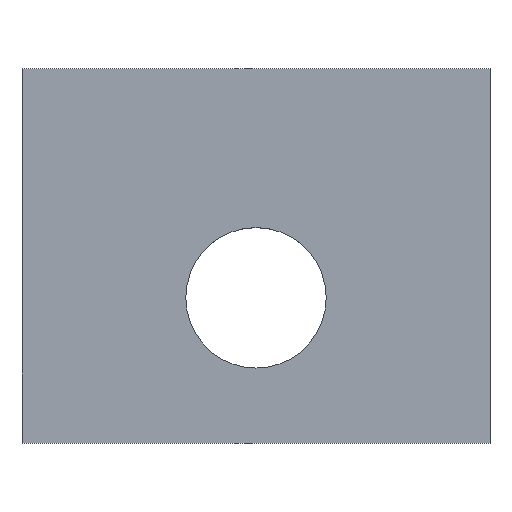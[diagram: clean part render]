
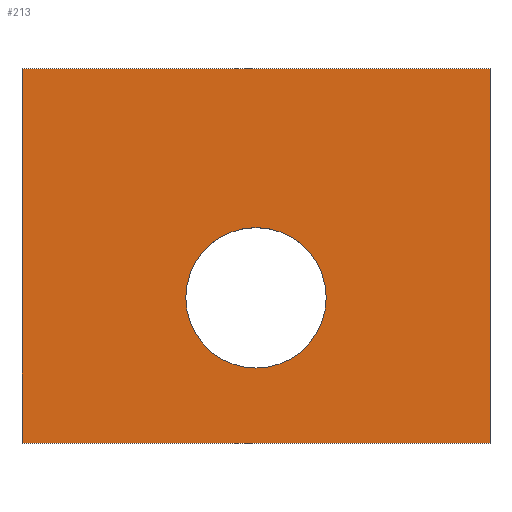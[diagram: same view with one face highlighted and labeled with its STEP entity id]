
A CAD part, top view. The second image highlights one B-rep face of the part: STEP entity #213.
In plain terms, the highlighted planar face has unit normal (0, 0, 1).
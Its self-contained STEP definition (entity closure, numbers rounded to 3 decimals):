
#24 = VERTEX_POINT('',#25);
#25 = CARTESIAN_POINT('',(11.,-15.1,-2.2));
#32 = PLANE('',#33);
#33 = AXIS2_PLACEMENT_3D('',#34,#35,#36);
#34 = CARTESIAN_POINT('',(11.,-15.1,-4.05));
#35 = DIRECTION('',(1.,0.,0.));
#36 = DIRECTION('',(0.,0.,1.));
#44 = PLANE('',#45);
#45 = AXIS2_PLACEMENT_3D('',#46,#47,#48);
#46 = CARTESIAN_POINT('',(11.,-15.1,-4.05));
#47 = DIRECTION('',(0.,1.,0.));
#48 = DIRECTION('',(0.,0.,1.));
#85 = VERTEX_POINT('',#86);
#86 = CARTESIAN_POINT('',(11.,-10.3,-2.2));
#100 = PLANE('',#101);
#101 = AXIS2_PLACEMENT_3D('',#102,#103,#104);
#102 = CARTESIAN_POINT('',(11.,-10.3,-4.05));
#103 = DIRECTION('',(0.,1.,0.));
#104 = DIRECTION('',(0.,0.,1.));
#112 = EDGE_CURVE('',#24,#85,#113,.T.);
#113 = SURFACE_CURVE('',#114,(#118,#125),.PCURVE_S1.);
#114 = LINE('',#115,#116);
#115 = CARTESIAN_POINT('',(11.,-15.1,-2.2));
#116 = VECTOR('',#117,1.);
#117 = DIRECTION('',(0.,1.,0.));
#118 = PCURVE('',#32,#119);
#119 = DEFINITIONAL_REPRESENTATION('',(#120),#124);
#120 = LINE('',#121,#122);
#121 = CARTESIAN_POINT('',(1.85,0.));
#122 = VECTOR('',#123,1.);
#123 = DIRECTION('',(0.,-1.));
#124 = ( GEOMETRIC_REPRESENTATION_CONTEXT(2) 
PARAMETRIC_REPRESENTATION_CONTEXT() REPRESENTATION_CONTEXT('2D SPACE',''
  ) );
#125 = PCURVE('',#126,#131);
#126 = PLANE('',#127);
#127 = AXIS2_PLACEMENT_3D('',#128,#129,#130);
#128 = CARTESIAN_POINT('',(11.,-15.1,-2.2));
#129 = DIRECTION('',(0.,0.,1.));
#130 = DIRECTION('',(1.,0.,0.));
#131 = DEFINITIONAL_REPRESENTATION('',(#132),#136);
#132 = LINE('',#133,#134);
#133 = CARTESIAN_POINT('',(0.,0.));
#134 = VECTOR('',#135,1.);
#135 = DIRECTION('',(0.,1.));
#136 = ( GEOMETRIC_REPRESENTATION_CONTEXT(2) 
PARAMETRIC_REPRESENTATION_CONTEXT() REPRESENTATION_CONTEXT('2D SPACE',''
  ) );
#165 = EDGE_CURVE('',#24,#166,#168,.T.);
#166 = VERTEX_POINT('',#167);
#167 = CARTESIAN_POINT('',(17.,-15.1,-2.2));
#168 = SURFACE_CURVE('',#169,(#173,#180),.PCURVE_S1.);
#169 = LINE('',#170,#171);
#170 = CARTESIAN_POINT('',(11.,-15.1,-2.2));
#171 = VECTOR('',#172,1.);
#172 = DIRECTION('',(1.,0.,0.));
#173 = PCURVE('',#44,#174);
#174 = DEFINITIONAL_REPRESENTATION('',(#175),#179);
#175 = LINE('',#176,#177);
#176 = CARTESIAN_POINT('',(1.85,0.));
#177 = VECTOR('',#178,1.);
#178 = DIRECTION('',(0.,1.));
#179 = ( GEOMETRIC_REPRESENTATION_CONTEXT(2) 
PARAMETRIC_REPRESENTATION_CONTEXT() REPRESENTATION_CONTEXT('2D SPACE',''
  ) );
#180 = PCURVE('',#126,#181);
#181 = DEFINITIONAL_REPRESENTATION('',(#182),#186);
#182 = LINE('',#183,#184);
#183 = CARTESIAN_POINT('',(0.,0.));
#184 = VECTOR('',#185,1.);
#185 = DIRECTION('',(1.,0.));
#186 = ( GEOMETRIC_REPRESENTATION_CONTEXT(2) 
PARAMETRIC_REPRESENTATION_CONTEXT() REPRESENTATION_CONTEXT('2D SPACE',''
  ) );
#202 = PLANE('',#203);
#203 = AXIS2_PLACEMENT_3D('',#204,#205,#206);
#204 = CARTESIAN_POINT('',(17.,-15.1,-4.05));
#205 = DIRECTION('',(1.,0.,0.));
#206 = DIRECTION('',(0.,0.,1.));
#213 = ADVANCED_FACE('',(#214,#262),#126,.T.);
#214 = FACE_BOUND('',#215,.T.);
#215 = EDGE_LOOP('',(#216,#217,#218,#241));
#216 = ORIENTED_EDGE('',*,*,#112,.F.);
#217 = ORIENTED_EDGE('',*,*,#165,.T.);
#218 = ORIENTED_EDGE('',*,*,#219,.T.);
#219 = EDGE_CURVE('',#166,#220,#222,.T.);
#220 = VERTEX_POINT('',#221);
#221 = CARTESIAN_POINT('',(17.,-10.3,-2.2));
#222 = SURFACE_CURVE('',#223,(#227,#234),.PCURVE_S1.);
#223 = LINE('',#224,#225);
#224 = CARTESIAN_POINT('',(17.,-15.1,-2.2));
#225 = VECTOR('',#226,1.);
#226 = DIRECTION('',(0.,1.,0.));
#227 = PCURVE('',#126,#228);
#228 = DEFINITIONAL_REPRESENTATION('',(#229),#233);
#229 = LINE('',#230,#231);
#230 = CARTESIAN_POINT('',(6.,0.));
#231 = VECTOR('',#232,1.);
#232 = DIRECTION('',(0.,1.));
#233 = ( GEOMETRIC_REPRESENTATION_CONTEXT(2) 
PARAMETRIC_REPRESENTATION_CONTEXT() REPRESENTATION_CONTEXT('2D SPACE',''
  ) );
#234 = PCURVE('',#202,#235);
#235 = DEFINITIONAL_REPRESENTATION('',(#236),#240);
#236 = LINE('',#237,#238);
#237 = CARTESIAN_POINT('',(1.85,0.));
#238 = VECTOR('',#239,1.);
#239 = DIRECTION('',(0.,-1.));
#240 = ( GEOMETRIC_REPRESENTATION_CONTEXT(2) 
PARAMETRIC_REPRESENTATION_CONTEXT() REPRESENTATION_CONTEXT('2D SPACE',''
  ) );
#241 = ORIENTED_EDGE('',*,*,#242,.F.);
#242 = EDGE_CURVE('',#85,#220,#243,.T.);
#243 = SURFACE_CURVE('',#244,(#248,#255),.PCURVE_S1.);
#244 = LINE('',#245,#246);
#245 = CARTESIAN_POINT('',(11.,-10.3,-2.2));
#246 = VECTOR('',#247,1.);
#247 = DIRECTION('',(1.,0.,0.));
#248 = PCURVE('',#126,#249);
#249 = DEFINITIONAL_REPRESENTATION('',(#250),#254);
#250 = LINE('',#251,#252);
#251 = CARTESIAN_POINT('',(0.,4.8));
#252 = VECTOR('',#253,1.);
#253 = DIRECTION('',(1.,0.));
#254 = ( GEOMETRIC_REPRESENTATION_CONTEXT(2) 
PARAMETRIC_REPRESENTATION_CONTEXT() REPRESENTATION_CONTEXT('2D SPACE',''
  ) );
#255 = PCURVE('',#100,#256);
#256 = DEFINITIONAL_REPRESENTATION('',(#257),#261);
#257 = LINE('',#258,#259);
#258 = CARTESIAN_POINT('',(1.85,0.));
#259 = VECTOR('',#260,1.);
#260 = DIRECTION('',(0.,1.));
#261 = ( GEOMETRIC_REPRESENTATION_CONTEXT(2) 
PARAMETRIC_REPRESENTATION_CONTEXT() REPRESENTATION_CONTEXT('2D SPACE',''
  ) );
#262 = FACE_BOUND('',#263,.T.);
#263 = EDGE_LOOP('',(#264));
#264 = ORIENTED_EDGE('',*,*,#265,.F.);
#265 = EDGE_CURVE('',#266,#266,#268,.T.);
#266 = VERTEX_POINT('',#267);
#267 = CARTESIAN_POINT('',(14.9,-13.238,-2.2));
#268 = SURFACE_CURVE('',#269,(#274,#281),.PCURVE_S1.);
#269 = CIRCLE('',#270,0.9);
#270 = AXIS2_PLACEMENT_3D('',#271,#272,#273);
#271 = CARTESIAN_POINT('',(14.,-13.238,-2.2));
#272 = DIRECTION('',(0.,0.,1.));
#273 = DIRECTION('',(1.,0.,-0.));
#274 = PCURVE('',#126,#275);
#275 = DEFINITIONAL_REPRESENTATION('',(#276),#280);
#276 = CIRCLE('',#277,0.9);
#277 = AXIS2_PLACEMENT_2D('',#278,#279);
#278 = CARTESIAN_POINT('',(3.,1.862));
#279 = DIRECTION('',(1.,0.));
#280 = ( GEOMETRIC_REPRESENTATION_CONTEXT(2) 
PARAMETRIC_REPRESENTATION_CONTEXT() REPRESENTATION_CONTEXT('2D SPACE',''
  ) );
#281 = PCURVE('',#282,#287);
#282 = CYLINDRICAL_SURFACE('',#283,0.9);
#283 = AXIS2_PLACEMENT_3D('',#284,#285,#286);
#284 = CARTESIAN_POINT('',(14.,-13.238,-4.15));
#285 = DIRECTION('',(0.,0.,1.));
#286 = DIRECTION('',(1.,0.,-0.));
#287 = DEFINITIONAL_REPRESENTATION('',(#288),#292);
#288 = LINE('',#289,#290);
#289 = CARTESIAN_POINT('',(0.,1.95));
#290 = VECTOR('',#291,1.);
#291 = DIRECTION('',(1.,0.));
#292 = ( GEOMETRIC_REPRESENTATION_CONTEXT(2) 
PARAMETRIC_REPRESENTATION_CONTEXT() REPRESENTATION_CONTEXT('2D SPACE',''
  ) );
